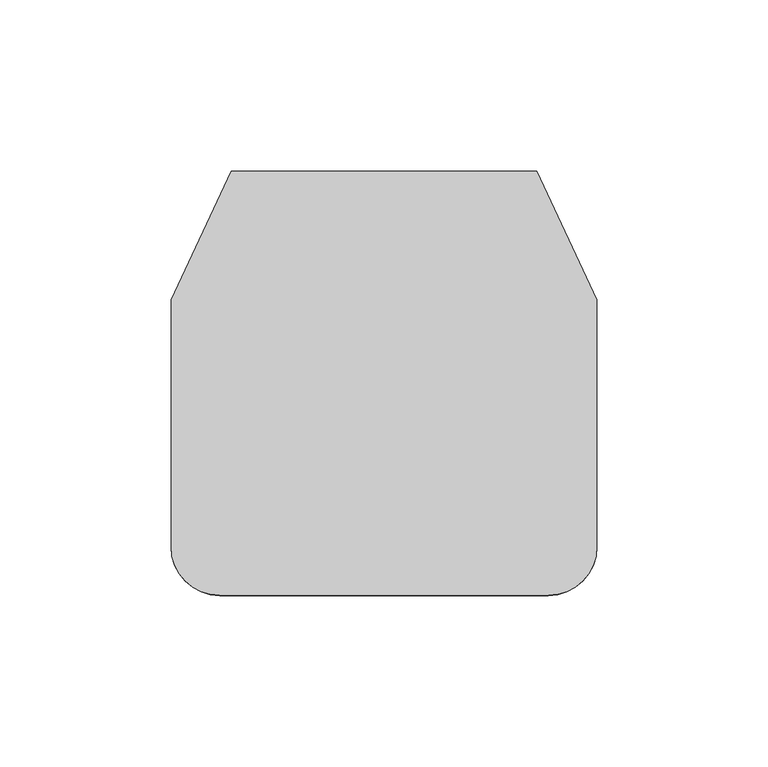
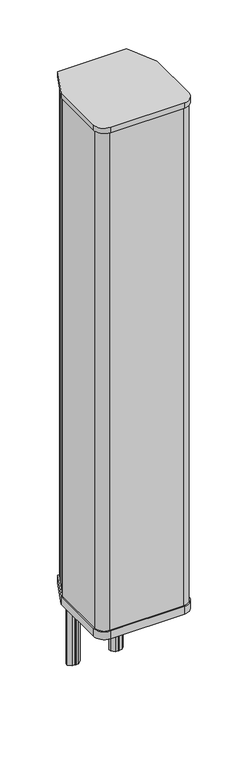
"""IFC4 building model written with IfcOpenShell, lengths in millimetres: proxy geometry, d&b xC-Series 24C-E Column Extension : 24C-E Column Extension."""

import ifcopenshell
import ifcopenshell.guid

model = None  # the IFC model being written
_history = None  # IfcOwnerHistory: only IFC2X3 demands one
_inside = {}  # id of a spatial element -> (the spatial element, [elements in it])
_under = {}  # id of a project, library or spatial element -> (it, [spatial elements below it])
_declared = {}  # id of a project -> (the project, [libraries it declares])
_typed = {}  # id of a type object -> (the type object, [elements of that type])
_made_of = {}  # id of a material, layer set ... -> (it, [elements and type objects made of it])


def new_model(schema):
    """Start an empty IFC model of exactly this schema.

    Asked for "IFC4X3", IfcOpenShell would pick the latest addendum, in which some entities
    have other attributes; the version numbers below select the first issue.
    IFC2X3 requires an IfcOwnerHistory on every rooted entity: one is made here for all.
    """
    global model, _history
    if schema == "IFC4X3":
        model = ifcopenshell.file(schema_version=(4, 3, 0, 0))
    else:
        model = ifcopenshell.file(schema=schema)
    _inside.clear()
    _under.clear()
    _declared.clear()
    _typed.clear()
    _made_of.clear()
    _history = None
    if model.schema == "IFC2X3":
        org = make("IfcOrganization", Name="unknown")
        user = make(
            "IfcPersonAndOrganization",
            ThePerson=make("IfcPerson", FamilyName="unknown"),
            TheOrganization=org,
        )
        app = make(
            "IfcApplication",
            ApplicationDeveloper=org,
            Version="unknown",
            ApplicationFullName="unknown",
            ApplicationIdentifier="unknown",
        )
        _history = make(
            "IfcOwnerHistory",
            OwningUser=user,
            OwningApplication=app,
            ChangeAction="ADDED",
            CreationDate=0,
        )
    return model


def make(cls, **values):
    """One entity of the class cls with the attributes given. An attribute that is None is left unset."""
    return model.create_entity(
        cls, **{name: value for name, value in values.items() if value is not None}
    )


def rooted(cls, **values):
    """An entity with a GlobalId (a new one), such as an element, a storey or a relation."""
    return make(cls, GlobalId=ifcopenshell.guid.new(), OwnerHistory=_history, **values)


def si_unit(unit_type, name, prefix=None):
    """IfcSIUnit, for example si_unit("LENGTHUNIT", "METRE", prefix="MILLI")."""
    return make("IfcSIUnit", UnitType=unit_type, Prefix=prefix, Name=name)


def assignment(units):
    """IfcUnitAssignment: the units of a project."""
    return None if units is None else make("IfcUnitAssignment", Units=units)


def point(xyz):
    """IfcCartesianPoint."""
    return None if xyz is None else make("IfcCartesianPoint", Coordinates=xyz)


def direction(xyz):
    """IfcDirection."""
    return None if xyz is None else make("IfcDirection", DirectionRatios=xyz)


def frame(location, z_axis=None, x_axis=None):
    """IfcAxis2Placement3D, a coordinate frame: its origin and axes. An axis left out is left unset."""
    return make(
        "IfcAxis2Placement3D",
        Location=point(location),
        Axis=direction(z_axis),
        RefDirection=direction(x_axis),
    )


def frame_2d(location, x_axis=None):
    """IfcAxis2Placement2D, a coordinate frame in the plane: its origin and x axis."""
    return make(
        "IfcAxis2Placement2D", Location=point(location), RefDirection=direction(x_axis)
    )


def origin():
    """The frame at (0, 0, 0) with its axes left unset."""
    return frame((0.0, 0.0, 0.0))


def place(relative_to, where):
    """IfcLocalPlacement: puts the frame where relative to a parent placement (None: the world)."""
    return make(
        "IfcLocalPlacement", PlacementRelTo=relative_to, RelativePlacement=where
    )


def context(
    kind, dimensions, precision=None, world=None, true_north=None, identifier=None
):
    """IfcGeometricRepresentationContext, for example the 3D "Model" context."""
    return make(
        "IfcGeometricRepresentationContext",
        ContextIdentifier=identifier,
        ContextType=kind,
        CoordinateSpaceDimension=dimensions,
        Precision=precision,
        WorldCoordinateSystem=world,
        TrueNorth=true_north,
    )


def project(units=None, contexts=None):
    """IfcProject with its units and contexts."""
    return rooted(
        "IfcProject",
        Name="project",
        RepresentationContexts=contexts,
        UnitsInContext=assignment(units),
    )


def spatial(cls, under=None, at=None, **own):
    """A site, building, storey or space (cls), placed at a placement, below another one or the project."""
    s = rooted(cls, ObjectPlacement=at, **own)
    if under is not None:
        _under.setdefault(under.id(), (under, []))[1].append(s)
    return s


def polyline(points):
    """IfcPolyline through the points."""
    return make("IfcPolyline", Points=[point(p) for p in points])


def circle_curve(where, radius):
    """IfcCircle in the frame where."""
    return make("IfcCircle", Position=where, Radius=radius)


def trimmed(basis, trim1, trim2, sense, master):
    """IfcTrimmedCurve: the piece of a basis curve between two trims."""
    return make(
        "IfcTrimmedCurve",
        BasisCurve=basis,
        Trim1=trim1,
        Trim2=trim2,
        SenseAgreement=sense,
        MasterRepresentation=master,
    )


def segment(curve, same_sense, transition):
    """IfcCompositeCurveSegment."""
    return make(
        "IfcCompositeCurveSegment",
        Transition=transition,
        SameSense=same_sense,
        ParentCurve=curve,
    )


def composite_curve(segments, self_intersect=None):
    """IfcCompositeCurve: segments joined end to end."""
    return make("IfcCompositeCurve", Segments=segments, SelfIntersect=self_intersect)


def outline(outer, holes=None, kind="AREA"):
    """IfcArbitraryClosedProfileDef: a profile drawn as a closed curve; with holes, ...WithVoids."""
    if holes is None:
        return make("IfcArbitraryClosedProfileDef", ProfileType=kind, OuterCurve=outer)
    return make(
        "IfcArbitraryProfileDefWithVoids",
        ProfileType=kind,
        OuterCurve=outer,
        InnerCurves=holes,
    )


def extrude(swept, where, along, depth):
    """IfcExtrudedAreaSolid: the profile swept, set in the frame where, extruded along a direction by depth."""
    return make(
        "IfcExtrudedAreaSolid",
        SweptArea=swept,
        Position=where,
        ExtrudedDirection=direction(along),
        Depth=depth,
    )


def shape(context_of_items, identifier, shape_type, items):
    """IfcShapeRepresentation: the items that make up one representation, for example the "Body"."""
    return make(
        "IfcShapeRepresentation",
        ContextOfItems=context_of_items,
        RepresentationIdentifier=identifier,
        RepresentationType=shape_type,
        Items=items,
    )


def source(mapping_origin, context_of_items, identifier, shape_type, items):
    """IfcRepresentationMap: a shape defined once, which mapped items show again and again."""
    return make(
        "IfcRepresentationMap",
        MappingOrigin=mapping_origin,
        MappedRepresentation=shape(context_of_items, identifier, shape_type, items),
    )


def transform(
    local_origin,
    x_axis=None,
    y_axis=None,
    z_axis=None,
    scale=None,
    scale2=None,
    scale3=None,
    uniform=True,
):
    """IfcCartesianTransformationOperator3D, or its non-uniform kind. x_axis, y_axis, z_axis: its Axis1, 2, 3."""
    if uniform:
        return make(
            "IfcCartesianTransformationOperator3D",
            Axis1=direction(x_axis),
            Axis2=direction(y_axis),
            LocalOrigin=point(local_origin),
            Scale=scale,
            Axis3=direction(z_axis),
        )
    return make(
        "IfcCartesianTransformationOperator3DnonUniform",
        Axis1=direction(x_axis),
        Axis2=direction(y_axis),
        LocalOrigin=point(local_origin),
        Scale=scale,
        Axis3=direction(z_axis),
        Scale2=scale2,
        Scale3=scale3,
    )


def mapped(mapping_source, mapping_target):
    """IfcMappedItem: shows the shape of a source again, moved by a transform."""
    return make(
        "IfcMappedItem", MappingSource=mapping_source, MappingTarget=mapping_target
    )


def made_of(thing, what):
    """Note that an element or type object is made of a material, layer set ...; save() writes the relation."""
    if what is not None:
        _made_of.setdefault(what.id(), (what, []))[1].append(thing)
    return thing


def element(
    cls,
    number,
    at=None,
    inside=None,
    cuts=None,
    type_object=None,
    material=None,
    context=None,
    identifier="Body",
    shape_type=None,
    held_by="IfcProductDefinitionShape",
    body=None,
    shapes=None,
    **own,
):
    """One element of the class cls, such as IfcWall. Its Tag is "e" and its number.

    at: its placement. inside: the storey or other place that contains it. cuts: it is an
    opening in that element (IfcRelVoidsElement). A single representation is given by context,
    identifier, shape_type and body (its items); several are given by shapes. held_by: the class
    of the entity that holds the representations. save() writes the other relations.
    """
    e = rooted(cls, Tag="e%d" % number, ObjectPlacement=at, **own)
    if body is not None:
        shapes = [shape(context, identifier, shape_type, body)]
    if shapes is not None:
        e.Representation = make(held_by, Representations=shapes)
    if inside is not None:
        _inside.setdefault(inside.id(), (inside, []))[1].append(e)
    if cuts is not None:
        rooted(
            "IfcRelVoidsElement", RelatingBuildingElement=cuts, RelatedOpeningElement=e
        )
    if type_object is not None:
        _typed.setdefault(type_object.id(), (type_object, []))[1].append(e)
    return made_of(e, material)


def aggregate(whole, parts):
    """IfcRelAggregates: a whole, such as a stair, and the parts it consists of."""
    return rooted("IfcRelAggregates", RelatingObject=whole, RelatedObjects=parts)


def save(model, path):
    """Write the relations noted so far, then the file.

    IfcRelAggregates (storeys below a building ...), IfcRelContainedInSpatialStructure (elements
    in a storey), IfcRelDefinesByType, IfcRelAssociatesMaterial and IfcRelDeclares: one each for
    every whole, place, type object, material and project.
    """
    for whole, parts in _under.values():
        aggregate(whole, parts)
    for where, things in _inside.values():
        rooted(
            "IfcRelContainedInSpatialStructure",
            RelatedElements=things,
            RelatingStructure=where,
        )
    for kind, things in _typed.values():
        rooted("IfcRelDefinesByType", RelatedObjects=things, RelatingType=kind)
    for what, things in _made_of.values():
        rooted("IfcRelAssociatesMaterial", RelatedObjects=things, RelatingMaterial=what)
    for by, libraries in _declared.values():
        rooted("IfcRelDeclares", RelatingContext=by, RelatedDefinitions=libraries)
    model.write(path)


def communication_devices_21d4f61b(model_context):
    return source(origin(), model_context, "Body", "SweptSolid", [
        extrude(outline(polyline([(517.0, 34.5), (483.0, 34.5), (483.0, 59.5), (517.0, 59.5), (517.0, 34.5)])), frame((0.0, 0.0, -45.0), z_axis=(0.0, 0.0, 1.0), x_axis=(1.0, 0.0, 0.0)), (0.0, 0.0, 1.0), 41.5),
        extrude(outline(polyline([(463.7499997, 55.2999992), (463.7499997, 58.0499992), (480.2500003, 58.0499992), (480.2500003, 55.2999992), (476.2000011, 51.25), (472.8999999, 51.25), (472.0, 50.7348518), (471.1000001, 51.25), (467.7999989, 51.25), (463.7499997, 55.2999992)])), frame((0.0, 0.0, -115.0), z_axis=(0.0, 0.0, 1.0), x_axis=(1.0, 0.0, 0.0)), (0.0, 0.0, 1.0), 111.5),
        extrude(outline(polyline([(536.2500003, 55.2999992), (532.2000011, 51.25), (528.8999999, 51.25), (528.0, 50.7348518), (527.1000001, 51.25), (523.7999989, 51.25), (519.7499997, 55.2999992), (519.7499997, 58.0499992), (536.2500003, 58.0499992), (536.2500003, 55.2999992)])), frame((0.0, 0.0, -115.0), z_axis=(0.0, 0.0, 1.0), x_axis=(1.0, 0.0, 0.0)), (0.0, 0.0, 1.0), 111.5),
        extrude(outline(polyline([(545.5615282, 50.1303765), (547.8272976, 51.1869221), (554.1607261, 37.604841), (551.8949566, 36.5482954), (545.5615282, 50.1303765)])), frame((0.0, 0.0, 7.0), z_axis=(0.0, 0.0, 1.0), x_axis=(1.0, 0.0, 0.0)), (0.0, 0.0, 1.0), 684.0),
        extrude(outline(polyline([(454.4384718, 50.1303765), (448.1050434, 36.5482954), (445.8392739, 37.604841), (452.1727024, 51.1869221), (454.4384718, 50.1303765)])), frame((0.0, 0.0, 7.0), z_axis=(0.0, 0.0, 1.0), x_axis=(1.0, 0.0, 0.0)), (0.0, 0.0, 1.0), 684.0),
        extrude(outline(composite_curve([segment(polyline([(467.95, 60.25), (467.95, 58.0499992), (463.7499997, 58.0499992), (463.7499997, 55.2955341), (467.7955338, 51.25), (476.2000011, 51.25), (480.2500003, 55.2999992), (480.2500003, 58.0499992), (476.05, 58.0499992), (476.05, 60.25), (523.95, 60.25), (523.95, 58.0499992), (519.7499997, 58.0499992), (519.7499997, 55.2999992), (523.7999989, 51.25), (532.2044662, 51.25), (536.2500003, 55.2955341), (536.2500003, 58.0499992), (532.05, 58.0499992), (532.05, 60.25), (543.601115, 60.25), (547.8272976, 51.1869221), (545.5615282, 50.1303765), (551.8949566, 36.5482954), (554.1607261, 37.604841), (560.5, 24.0102242), (560.5, -47.962132)]), True, "CONTINUOUS"), segment(trimmed(circle_curve(frame_2d((548.212132, -47.962132)), 12.287868), [point((560.5, -47.962132))], [point((548.212132, -60.25))], False, "CARTESIAN"), True, "CONTINUOUS"), segment(polyline([(548.212132, -60.25), (451.787868, -60.25)]), True, "CONTINUOUS"), segment(trimmed(circle_curve(frame_2d((451.787868, -47.962132)), 12.287868), [point((451.787868, -60.25))], [point((439.5, -47.962132))], False, "CARTESIAN"), True, "CONTINUOUS"), segment(polyline([(439.5, -47.962132), (439.5, 24.0102242), (445.8392739, 37.604841), (448.1050434, 36.5482954), (454.4384718, 50.1303765), (452.1727024, 51.1869221), (456.398885, 60.25), (467.95, 60.25)]), True, "CONTINUOUS")], self_intersect=False)), frame((0.0, 0.0, 7.0), z_axis=(0.0, 0.0, 1.0), x_axis=(1.0, 0.0, 0.0)), (0.0, 0.0, 1.0), 684.0),
        extrude(outline(composite_curve([segment(polyline([(544.715988, 62.0), (562.25, 24.3981899), (562.25, -47.75)]), True, "CONTINUOUS"), segment(trimmed(circle_curve(frame_2d((548.0, -47.75)), 14.25), [point((562.25, -47.75))], [point((548.0, -62.0))], False, "CARTESIAN"), True, "CONTINUOUS"), segment(polyline([(548.0, -62.0), (452.0, -62.0)]), True, "CONTINUOUS"), segment(trimmed(circle_curve(frame_2d((452.0, -47.75)), 14.25), [point((452.0, -62.0))], [point((437.75, -47.75))], False, "CARTESIAN"), True, "CONTINUOUS"), segment(polyline([(437.75, -47.75), (437.75, 24.3981899), (455.284012, 62.0), (544.715988, 62.0)]), True, "CONTINUOUS")], self_intersect=False)), frame((0.0, 0.0, -3.5), z_axis=(0.0, 0.0, 1.0), x_axis=(1.0, 0.0, 0.0)), (0.0, 0.0, 1.0), 10.5),
        extrude(outline(composite_curve([segment(polyline([(544.715988, 62.0), (562.25, 24.3981899), (562.25, -47.75)]), True, "CONTINUOUS"), segment(trimmed(circle_curve(frame_2d((548.0, -47.75)), 14.25), [point((562.25, -47.75))], [point((548.0, -62.0))], False, "CARTESIAN"), True, "CONTINUOUS"), segment(polyline([(548.0, -62.0), (452.0, -62.0)]), True, "CONTINUOUS"), segment(trimmed(circle_curve(frame_2d((452.0, -47.75)), 14.25), [point((452.0, -62.0))], [point((437.75, -47.75))], False, "CARTESIAN"), True, "CONTINUOUS"), segment(polyline([(437.75, -47.75), (437.75, 24.3981899), (455.284012, 62.0), (544.715988, 62.0)]), True, "CONTINUOUS")], self_intersect=False)), frame((0.0, 0.0, 691.0), z_axis=(0.0, 0.0, 1.0), x_axis=(1.0, 0.0, 0.0)), (0.0, 0.0, 1.0), 7.0),
    ])


if __name__ == "__main__":
    model = new_model("IFC4")
    model_context = context("Model", 3, world=origin())
    ifc_project = project(units=[si_unit("LENGTHUNIT", "METRE", prefix="MILLI")], contexts=[model_context])
    site = spatial("IfcSite", under=ifc_project)
    building = spatial("IfcBuilding", under=site)
    placement = place(None, origin())
    communication_devices_shape = communication_devices_21d4f61b(model_context)
    element("IfcBuildingElementProxy", 1, Name="d&b xC-Series 24C-E Column Extension : 24C-E Column Extension", ObjectType="d&b xC-Series 24C-E Column Extension : 24C-E Column Extension", at=placement, inside=building, context=model_context, shape_type="MappedRepresentation", body=[
        mapped(communication_devices_shape, transform((0.0, 0.0, 0.0), x_axis=(1.0, 0.0, 0.0), y_axis=(0.0, 1.0, 0.0), z_axis=(0.0, 0.0, 1.0))),
    ])
    save(model, "model.ifc")
